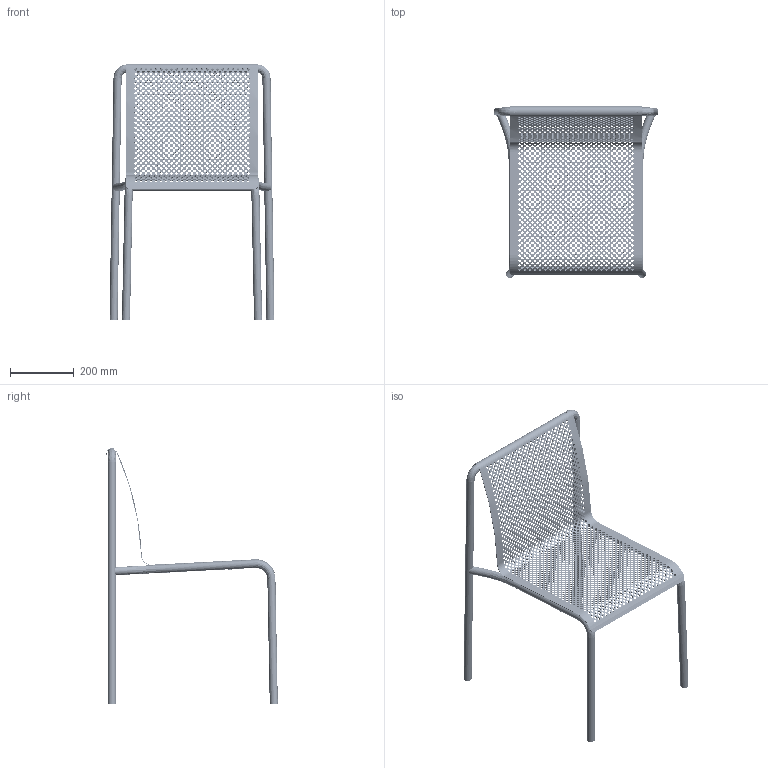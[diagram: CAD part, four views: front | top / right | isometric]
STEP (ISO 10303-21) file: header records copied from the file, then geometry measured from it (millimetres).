
FILE_DESCRIPTION(/* description */ (''),/* implementation_level */ '2;1');
FILE_NAME(/* name */ '241014_Dapple chair',/* time_stamp */ '2024-10-15T13:17:44+02:00',/* author */ (''),/* organization */ (''),/* preprocessor_version */ 'ST-DEVELOPER v19.2',/* originating_system */ 'Rhino 8.12',/* authorisation */ '');
FILE_SCHEMA (('CONFIG_CONTROL_DESIGN'));
Length unit declared in the file: millimetre
Products named in the file (1): Document
Bounding box: 516 x 536.63 x 800.45 mm (x, y, z)
Volume: 1114884.7 mm3; surface area: 1559309.1 mm2
Topology: 19 solids, 19 shells, 4838 faces, 14238 edges, 9340 vertices
Faces by surface type: bspline 2609, cylinder 2059, plane 170
Entity records: 430805 total; most frequent: CARTESIAN_POINT 315403, ORIENTED_EDGE 28460, EDGE_CURVE 14230, DIRECTION 10733, B_SPLINE_CURVE_WITH_KNOTS 9916, VERTEX_POINT 9340, EDGE_LOOP 9054, AXIS2_PLACEMENT_3D 6481
